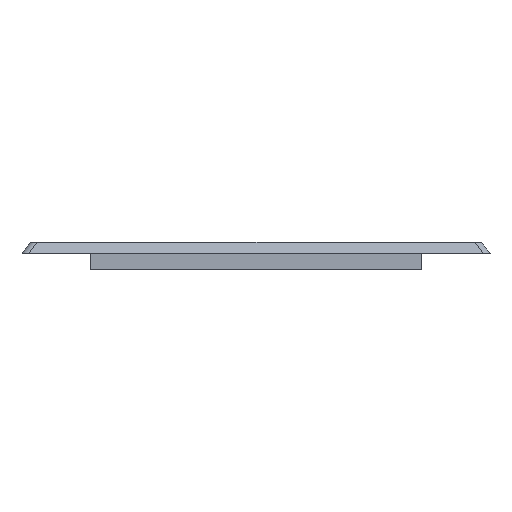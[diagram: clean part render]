
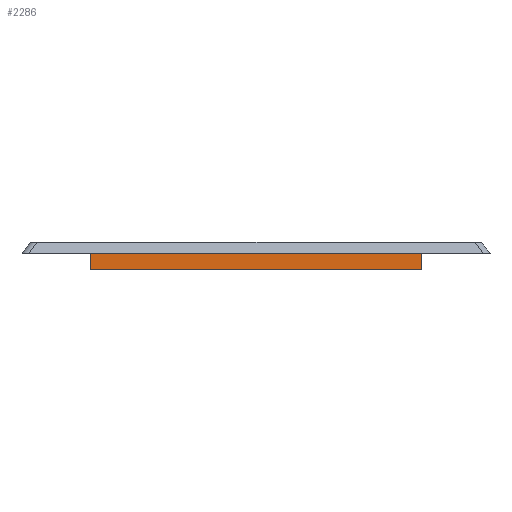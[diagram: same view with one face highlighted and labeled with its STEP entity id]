
A CAD part, left-side view. The second image highlights one B-rep face of the part: STEP entity #2286.
In plain terms, the highlighted planar face has unit normal (-1, 0, 0).
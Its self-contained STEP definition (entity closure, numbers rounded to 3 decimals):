
#220=FACE_OUTER_BOUND('',#354,.T.);
#354=EDGE_LOOP('',(#1883,#1884,#1885,#1886));
#581=LINE('',#3369,#849);
#670=LINE('',#3529,#938);
#676=LINE('',#3540,#944);
#677=LINE('',#3542,#945);
#849=VECTOR('',#2705,120.);
#938=VECTOR('',#2866,8.);
#944=VECTOR('',#2876,8.);
#945=VECTOR('',#2879,120.);
#1095=VERTEX_POINT('',#3366);
#1096=VERTEX_POINT('',#3368);
#1131=VERTEX_POINT('',#3528);
#1134=VERTEX_POINT('',#3538);
#1329=EDGE_CURVE('',#1096,#1095,#581,.T.);
#1418=EDGE_CURVE('',#1131,#1096,#670,.T.);
#1424=EDGE_CURVE('',#1095,#1134,#676,.T.);
#1425=EDGE_CURVE('',#1131,#1134,#677,.T.);
#1883=ORIENTED_EDGE('',*,*,#1425,.F.);
#1884=ORIENTED_EDGE('',*,*,#1418,.T.);
#1885=ORIENTED_EDGE('',*,*,#1329,.T.);
#1886=ORIENTED_EDGE('',*,*,#1424,.T.);
#2192=PLANE('',#2406);
#2286=ADVANCED_FACE('',(#220),#2192,.T.);
#2406=AXIS2_PLACEMENT_3D('',#3541,#2877,#2878);
#2705=DIRECTION('',(0.,-1.,0.));
#2866=DIRECTION('',(0.,0.,-1.));
#2876=DIRECTION('',(0.,0.,1.));
#2877=DIRECTION('center_axis',(-1.,0.,0.));
#2878=DIRECTION('ref_axis',(0.,0.,1.));
#2879=DIRECTION('',(0.,-1.,0.));
#3366=CARTESIAN_POINT('',(-108.,-60.,-6.));
#3368=CARTESIAN_POINT('',(-108.,60.,-6.));
#3369=CARTESIAN_POINT('',(-108.,60.,-6.));
#3528=CARTESIAN_POINT('',(-108.,60.,2.));
#3529=CARTESIAN_POINT('',(-108.,60.,4.));
#3538=CARTESIAN_POINT('',(-108.,-60.,2.));
#3540=CARTESIAN_POINT('',(-108.,-60.,-6.));
#3541=CARTESIAN_POINT('Origin',(-108.,0.,-1.));
#3542=CARTESIAN_POINT('',(-108.,0.,2.));
